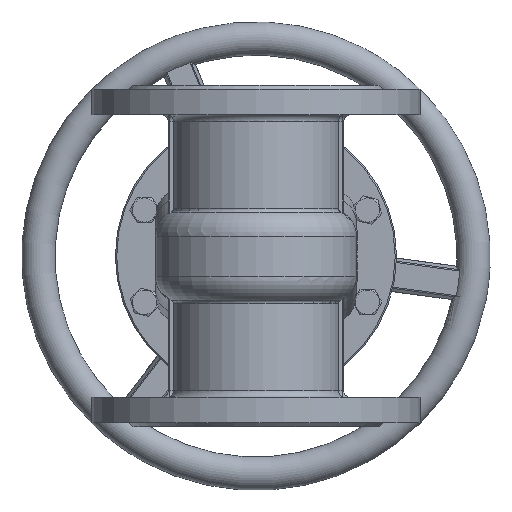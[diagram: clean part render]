
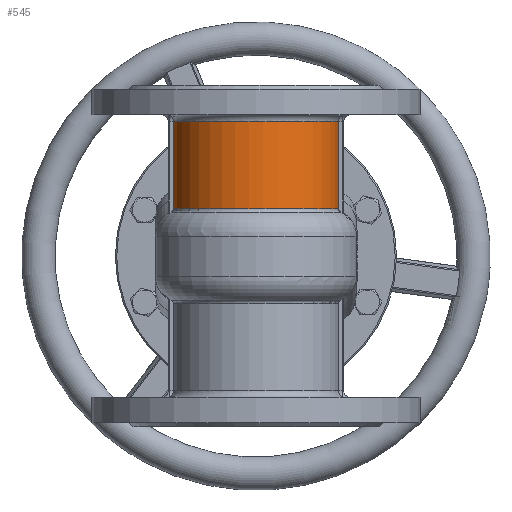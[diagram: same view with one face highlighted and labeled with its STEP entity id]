
A CAD part, front view. The second image highlights one B-rep face of the part: STEP entity #545.
In plain terms, the highlighted cylindrical face has radius 62.5 mm (diameter 125 mm), a partial arc.
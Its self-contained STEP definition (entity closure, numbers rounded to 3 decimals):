
#545=ADVANCED_FACE('',(#6475),#6477,.T.);
#6475=FACE_BOUND('',#6476,.T.);
#6476=EDGE_LOOP('',(#13775,#13776,#13777,#13778));
#6477=CYLINDRICAL_SURFACE('',#6478,62.5);
#6478=AXIS2_PLACEMENT_3D('',#6479,#6480,#6481);
#6479=CARTESIAN_POINT('',(0.,0.,95.));
#6480=DIRECTION('',(0.,0.,1.));
#6481=DIRECTION('',(1.,0.,0.));
#13775=ORIENTED_EDGE('',*,*,#17053,.F.);
#13776=ORIENTED_EDGE('',*,*,#17101,.T.);
#13777=ORIENTED_EDGE('',*,*,#17102,.T.);
#13778=ORIENTED_EDGE('',*,*,#17103,.F.);
#17053=EDGE_CURVE('',#18814,#18815,#18816,.T.);
#17101=EDGE_CURVE('',#18814,#18894,#18895,.T.);
#17102=EDGE_CURVE('',#18894,#18896,#18897,.T.);
#17103=EDGE_CURVE('',#18815,#18896,#18898,.F.);
#18814=VERTEX_POINT('',#21822);
#18815=VERTEX_POINT('',#21823);
#18816=CIRCLE('',#21824,62.5);
#18894=VERTEX_POINT('',#22426);
#18895=LINE('',#22427,#22428);
#18896=VERTEX_POINT('',#22430);
#18897=CIRCLE('',#22431,62.5);
#18898=LINE('',#22435,#22436);
#21822=CARTESIAN_POINT('',(-61.695,-10.,100.5));
#21823=CARTESIAN_POINT('',(61.695,-10.,100.5));
#21824=AXIS2_PLACEMENT_3D('',#21825,#21826,#21827);
#21825=CARTESIAN_POINT('',(0.,0.,100.5));
#21826=DIRECTION('',(0.,0.,1.));
#21827=DIRECTION('',(-0.987,-0.16,0.));
#22426=CARTESIAN_POINT('',(-61.695,-10.,35.463));
#22427=CARTESIAN_POINT('',(-61.695,-10.,100.5));
#22428=VECTOR('',#22429,1.);
#22429=DIRECTION('',(0.,0.,-1.));
#22430=CARTESIAN_POINT('',(61.695,-10.,35.463));
#22431=AXIS2_PLACEMENT_3D('',#22432,#22433,#22434);
#22432=CARTESIAN_POINT('',(0.,0.,35.463));
#22433=DIRECTION('',(0.,0.,1.));
#22434=DIRECTION('',(-0.987,-0.16,0.));
#22435=CARTESIAN_POINT('',(61.695,-10.,35.463));
#22436=VECTOR('',#22437,1.);
#22437=DIRECTION('',(0.,0.,1.));
